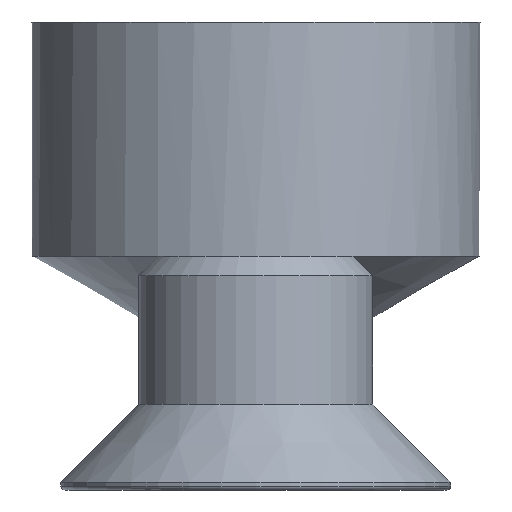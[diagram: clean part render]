
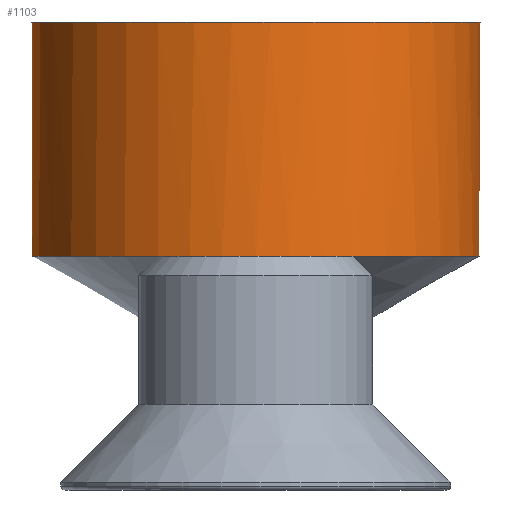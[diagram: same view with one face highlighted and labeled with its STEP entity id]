
A CAD part, left-side view. The second image highlights one B-rep face of the part: STEP entity #1103.
In plain terms, the highlighted cylindrical face has radius 5.75 mm (diameter 11.5 mm), a full revolution.
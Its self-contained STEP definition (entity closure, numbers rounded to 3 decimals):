
#445=CARTESIAN_POINT('',(5.178,2.5,0.0));
#446=VERTEX_POINT('',#445);
#494=CARTESIAN_POINT('',(-5.178,2.5,0.0));
#495=VERTEX_POINT('',#494);
#824=CARTESIAN_POINT('',(-5.178,-2.5,0.0));
#825=VERTEX_POINT('',#824);
#826=CARTESIAN_POINT('',(0.0,0.0,0.0));
#827=DIRECTION('',(0.0,0.0,-1.0));
#828=DIRECTION('',(-1.0,0.0,0.0));
#829=AXIS2_PLACEMENT_3D('',#826,#827,#828);
#830=CIRCLE('',#829,5.75);
#831=EDGE_CURVE('',#825,#495,#830,.T.);
#849=CARTESIAN_POINT('',(5.178,-2.5,0.0));
#850=VERTEX_POINT('',#849);
#851=CARTESIAN_POINT('',(0.0,0.0,0.0));
#852=DIRECTION('',(0.0,0.0,-1.0));
#853=DIRECTION('',(-1.0,0.0,0.0));
#854=AXIS2_PLACEMENT_3D('',#851,#852,#853);
#855=CIRCLE('',#854,5.75);
#856=EDGE_CURVE('',#446,#850,#855,.T.);
#1051=CARTESIAN_POINT('',(0.0,0.0,0.0));
#1052=DIRECTION('',(0.0,0.0,-1.0));
#1053=DIRECTION('',(-1.0,0.0,0.0));
#1054=AXIS2_PLACEMENT_3D('',#1051,#1052,#1053);
#1055=CIRCLE('',#1054,5.75);
#1056=EDGE_CURVE('',#850,#825,#1055,.T.);
#1069=CARTESIAN_POINT('',(0.0,0.0,0.0));
#1070=DIRECTION('',(0.0,0.0,-1.0));
#1071=DIRECTION('',(-1.0,0.0,0.0));
#1072=AXIS2_PLACEMENT_3D('',#1069,#1070,#1071);
#1073=CIRCLE('',#1072,5.75);
#1074=EDGE_CURVE('',#495,#446,#1073,.T.);
#1081=CARTESIAN_POINT('',(0.0,0.0,0.0));
#1082=DIRECTION('',(0.0,0.0,1.0));
#1083=DIRECTION('',(-1.0,0.0,0.0));
#1084=AXIS2_PLACEMENT_3D('',#1081,#1082,#1083);
#1085=CYLINDRICAL_SURFACE('',#1084,5.75);
#1086=CARTESIAN_POINT('',(5.75,0.,6.));
#1087=VERTEX_POINT('',#1086);
#1088=CARTESIAN_POINT('',(0.0,0.0,6.));
#1089=DIRECTION('',(0.0,0.0,-1.0));
#1090=DIRECTION('',(-1.0,0.0,0.0));
#1091=AXIS2_PLACEMENT_3D('',#1088,#1089,#1090);
#1092=CIRCLE('',#1091,5.75);
#1093=EDGE_CURVE('',#1087,#1087,#1092,.T.);
#1094=ORIENTED_EDGE('',*,*,#1093,.T.);
#1095=EDGE_LOOP('',(#1094));
#1096=FACE_OUTER_BOUND('',#1095,.T.);
#1097=ORIENTED_EDGE('',*,*,#856,.F.);
#1098=ORIENTED_EDGE('',*,*,#1074,.F.);
#1099=ORIENTED_EDGE('',*,*,#831,.F.);
#1100=ORIENTED_EDGE('',*,*,#1056,.F.);
#1101=EDGE_LOOP('',(#1097,#1098,#1099,#1100));
#1102=FACE_BOUND('',#1101,.T.);
#1103=ADVANCED_FACE('',(#1096,#1102),#1085,.T.);
